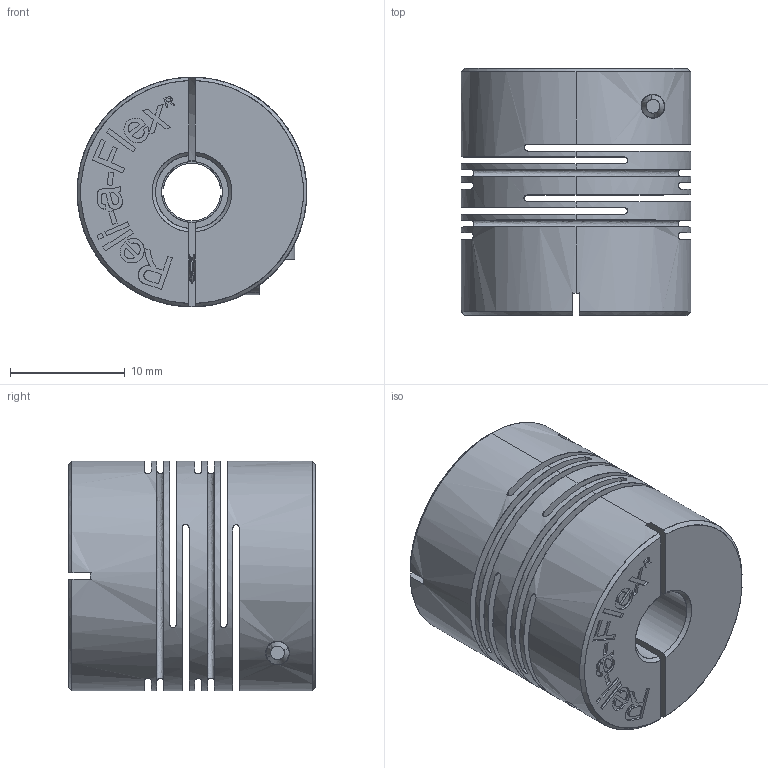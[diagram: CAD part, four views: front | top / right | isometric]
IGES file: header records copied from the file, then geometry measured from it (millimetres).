
Start section: Comment
Global section: file name: RCSA20C-0.250-5.igs; native system:  By UGS Corp.; preprocessor: XPlus GENERIC/IGES 3.0; author: Author; organization: Title; date: 20070323.104305; units: inch
Bounding box: 20 x 21.5 x 20 mm (x, y, z)
Surface area: 6720.5 mm2 (no closed solid volume)
Topology: 0 solids, 0 shells, 354 faces, 2510 edges, 2508 vertices
Faces by surface type: bspline 354
